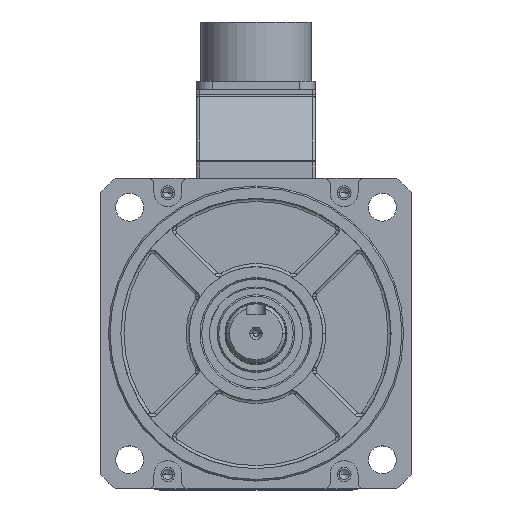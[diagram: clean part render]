
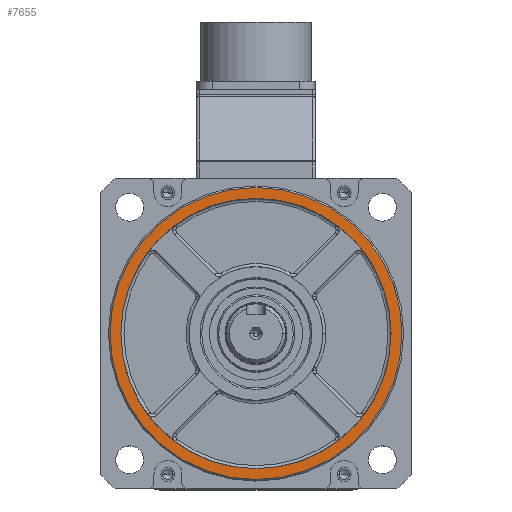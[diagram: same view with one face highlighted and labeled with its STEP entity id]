
A CAD part, top view. The second image highlights one B-rep face of the part: STEP entity #7655.
In plain terms, the highlighted planar face has unit normal (0, 0, 1).
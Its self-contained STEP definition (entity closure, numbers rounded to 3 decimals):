
#46 = CARTESIAN_POINT ( 'NONE',  ( 43.5, 0., 13. ) ) ;
#1016 = EDGE_LOOP ( 'NONE', ( #10889, #37562 ) ) ;
#2207 = EDGE_CURVE ( 'NONE', #42009, #20884, #42609, .T. ) ;
#2384 = FACE_OUTER_BOUND ( 'NONE', #1016, .T. ) ;
#2685 = DIRECTION ( 'NONE',  ( 1., 0., 0. ) ) ;
#4601 = AXIS2_PLACEMENT_3D ( 'NONE', #36186, #13604, #54310 ) ;
#4862 = DIRECTION ( 'NONE',  ( 1., 0., 0. ) ) ;
#7655 = ADVANCED_FACE ( 'NONE', ( #2384, #17224 ), #52297, .T. ) ;
#10889 = ORIENTED_EDGE ( 'NONE', *, *, #2207, .T. ) ;
#11125 = AXIS2_PLACEMENT_3D ( 'NONE', #14193, #13893, #14475 ) ;
#11551 = DIRECTION ( 'NONE',  ( 1., 0., 0. ) ) ;
#13475 = DIRECTION ( 'NONE',  ( 0., 0., 1. ) ) ;
#13604 = DIRECTION ( 'NONE',  ( 0., 0., 1. ) ) ;
#13893 = DIRECTION ( 'NONE',  ( 0., 0., 1. ) ) ;
#14193 = CARTESIAN_POINT ( 'NONE',  ( 0., 0., 13. ) ) ;
#14475 = DIRECTION ( 'NONE',  ( 1., 0., 0. ) ) ;
#14750 = VERTEX_POINT ( 'NONE', #41073 ) ;
#15169 = CIRCLE ( 'NONE', #48376, 43.5 ) ;
#16561 = CARTESIAN_POINT ( 'NONE',  ( 0., 0., 13. ) ) ;
#17224 = FACE_BOUND ( 'NONE', #23141, .T. ) ;
#20483 = DIRECTION ( 'NONE',  ( 0., 0., 1. ) ) ;
#20726 = DIRECTION ( 'NONE',  ( 0., 0., 1. ) ) ;
#20884 = VERTEX_POINT ( 'NONE', #48050 ) ;
#22216 = EDGE_CURVE ( 'NONE', #20884, #42009, #50146, .T. ) ;
#23141 = EDGE_LOOP ( 'NONE', ( #51870, #46058 ) ) ;
#26111 = CARTESIAN_POINT ( 'NONE',  ( 0., 0., 13. ) ) ;
#36186 = CARTESIAN_POINT ( 'NONE',  ( 0., 0., 13. ) ) ;
#37562 = ORIENTED_EDGE ( 'NONE', *, *, #22216, .T. ) ;
#41073 = CARTESIAN_POINT ( 'NONE',  ( -43.5, 0., 13. ) ) ;
#42009 = VERTEX_POINT ( 'NONE', #54896 ) ;
#42609 = CIRCLE ( 'NONE', #45469, 47. ) ;
#44344 = VERTEX_POINT ( 'NONE', #46 ) ;
#45469 = AXIS2_PLACEMENT_3D ( 'NONE', #45555, #13475, #4862 ) ;
#45555 = CARTESIAN_POINT ( 'NONE',  ( 0., 0., 13. ) ) ;
#46058 = ORIENTED_EDGE ( 'NONE', *, *, #56545, .F. ) ;
#47419 = AXIS2_PLACEMENT_3D ( 'NONE', #26111, #20483, #2685 ) ;
#48050 = CARTESIAN_POINT ( 'NONE',  ( 47., 0., 13. ) ) ;
#48096 = CIRCLE ( 'NONE', #11125, 43.5 ) ;
#48376 = AXIS2_PLACEMENT_3D ( 'NONE', #16561, #20726, #11551 ) ;
#48802 = EDGE_CURVE ( 'NONE', #44344, #14750, #15169, .T. ) ;
#50146 = CIRCLE ( 'NONE', #4601, 47. ) ;
#51870 = ORIENTED_EDGE ( 'NONE', *, *, #48802, .F. ) ;
#52297 = PLANE ( 'NONE',  #47419 ) ;
#54310 = DIRECTION ( 'NONE',  ( 1., 0., 0. ) ) ;
#54896 = CARTESIAN_POINT ( 'NONE',  ( -47., 0., 13. ) ) ;
#56545 = EDGE_CURVE ( 'NONE', #14750, #44344, #48096, .T. ) ;
